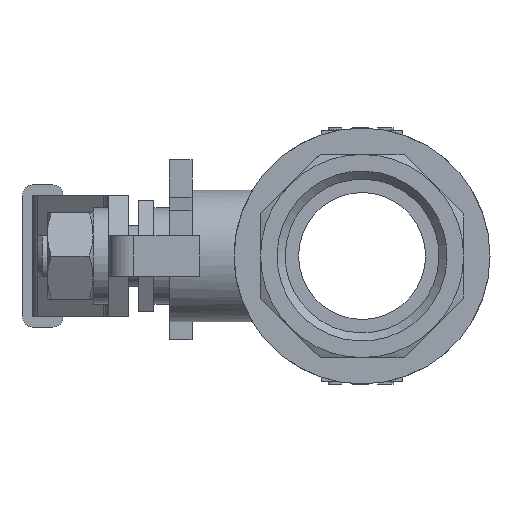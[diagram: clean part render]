
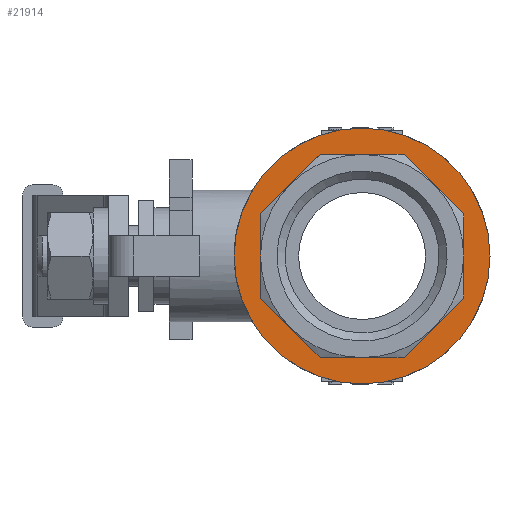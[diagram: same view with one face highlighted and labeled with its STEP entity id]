
A CAD part, left-side view. The second image highlights one B-rep face of the part: STEP entity #21914.
In plain terms, the highlighted planar face has unit normal (-1, 0, 0).
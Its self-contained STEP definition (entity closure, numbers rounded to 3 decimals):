
#197=FACE_BOUND('',#3414,.T.);
#1172=PLANE('',#23113);
#2249=FACE_OUTER_BOUND('',#3413,.T.);
#3413=EDGE_LOOP('',(#19629));
#3414=EDGE_LOOP('',(#19630,#19631,#19632,#19633,#19634,#19635,#19636,#19637));
#3789=CIRCLE('',#23114,25.2);
#6203=LINE('',#35362,#8728);
#6206=LINE('',#35367,#8731);
#6208=LINE('',#35371,#8733);
#6210=LINE('',#35375,#8735);
#6212=LINE('',#35379,#8737);
#6310=LINE('',#35667,#8835);
#6312=LINE('',#35671,#8837);
#6314=LINE('',#35674,#8839);
#8728=VECTOR('',#27725,10.);
#8731=VECTOR('',#27730,10.);
#8733=VECTOR('',#27734,10.);
#8735=VECTOR('',#27738,10.);
#8737=VECTOR('',#27742,10.);
#8835=VECTOR('',#27974,10.);
#8837=VECTOR('',#27978,10.);
#8839=VECTOR('',#27982,10.);
#10719=VERTEX_POINT('',#35359);
#10720=VERTEX_POINT('',#35361);
#10721=VERTEX_POINT('',#35365);
#10722=VERTEX_POINT('',#35369);
#10723=VERTEX_POINT('',#35373);
#10724=VERTEX_POINT('',#35377);
#10795=VERTEX_POINT('',#35666);
#10796=VERTEX_POINT('',#35670);
#10797=VERTEX_POINT('',#35677);
#13620=EDGE_CURVE('',#10719,#10720,#6203,.T.);
#13623=EDGE_CURVE('',#10721,#10719,#6206,.T.);
#13625=EDGE_CURVE('',#10722,#10721,#6208,.T.);
#13627=EDGE_CURVE('',#10723,#10722,#6210,.T.);
#13629=EDGE_CURVE('',#10724,#10723,#6212,.T.);
#13747=EDGE_CURVE('',#10720,#10795,#6310,.T.);
#13749=EDGE_CURVE('',#10795,#10796,#6312,.T.);
#13751=EDGE_CURVE('',#10796,#10724,#6314,.T.);
#13752=EDGE_CURVE('',#10797,#10797,#3789,.T.);
#19629=ORIENTED_EDGE('',*,*,#13752,.F.);
#19630=ORIENTED_EDGE('',*,*,#13625,.F.);
#19631=ORIENTED_EDGE('',*,*,#13627,.F.);
#19632=ORIENTED_EDGE('',*,*,#13629,.F.);
#19633=ORIENTED_EDGE('',*,*,#13751,.F.);
#19634=ORIENTED_EDGE('',*,*,#13749,.F.);
#19635=ORIENTED_EDGE('',*,*,#13747,.F.);
#19636=ORIENTED_EDGE('',*,*,#13620,.F.);
#19637=ORIENTED_EDGE('',*,*,#13623,.F.);
#21914=ADVANCED_FACE('',(#2249,#197),#1172,.T.);
#23113=AXIS2_PLACEMENT_3D('',#35676,#27985,#27986);
#23114=AXIS2_PLACEMENT_3D('',#35678,#27987,#27988);
#27725=DIRECTION('',(0.,-1.,0.));
#27730=DIRECTION('',(0.,-0.707,-0.707));
#27734=DIRECTION('',(0.,0.,-1.));
#27738=DIRECTION('',(0.,0.707,-0.707));
#27742=DIRECTION('',(0.,1.,0.));
#27974=DIRECTION('',(0.,-0.707,0.707));
#27978=DIRECTION('',(0.,0.,1.));
#27982=DIRECTION('',(0.,0.707,0.707));
#27985=DIRECTION('center_axis',(-1.,0.,0.));
#27986=DIRECTION('ref_axis',(0.,0.,1.));
#27987=DIRECTION('center_axis',(1.,0.,0.));
#27988=DIRECTION('ref_axis',(0.,1.,0.));
#35359=CARTESIAN_POINT('',(-84.048,-15.181,-20.));
#35361=CARTESIAN_POINT('',(-84.048,-31.75,-20.));
#35362=CARTESIAN_POINT('',(-84.048,-27.675,-20.));
#35365=CARTESIAN_POINT('',(-84.048,-3.466,-8.285));
#35367=CARTESIAN_POINT('',(-84.048,-12.3,-17.119));
#35369=CARTESIAN_POINT('',(-84.048,-3.466,8.284));
#35371=CARTESIAN_POINT('',(-84.048,-3.466,-4.21));
#35373=CARTESIAN_POINT('',(-84.048,-15.181,20.));
#35375=CARTESIAN_POINT('',(-84.048,-6.347,11.165));
#35377=CARTESIAN_POINT('',(-84.048,-31.75,20.));
#35379=CARTESIAN_POINT('',(-84.048,-19.256,20.));
#35666=CARTESIAN_POINT('',(-84.048,-43.466,-8.285));
#35667=CARTESIAN_POINT('',(-84.048,-40.584,-11.166));
#35670=CARTESIAN_POINT('',(-84.048,-43.466,8.284));
#35671=CARTESIAN_POINT('',(-84.048,-43.466,4.21));
#35674=CARTESIAN_POINT('',(-84.048,-34.631,17.119));
#35676=CARTESIAN_POINT('Origin',(-84.048,-0.016,
0.));
#35677=CARTESIAN_POINT('',(-84.048,-48.666,0.));
#35678=CARTESIAN_POINT('Origin',(-84.048,-23.466,0.));
